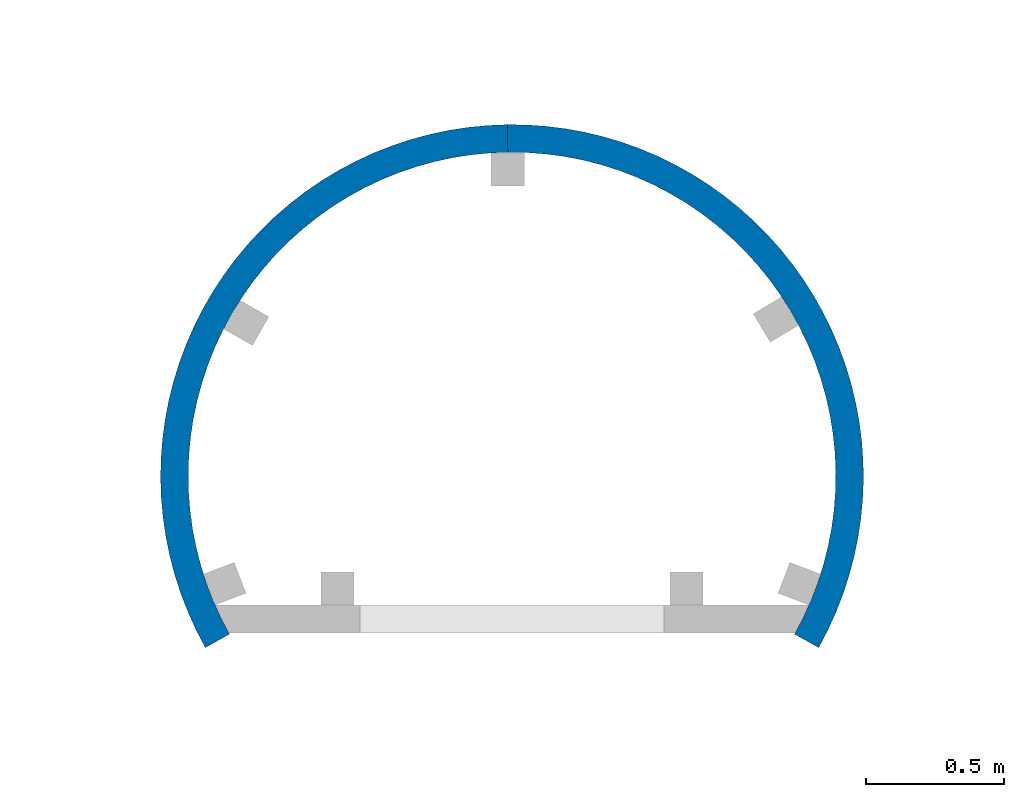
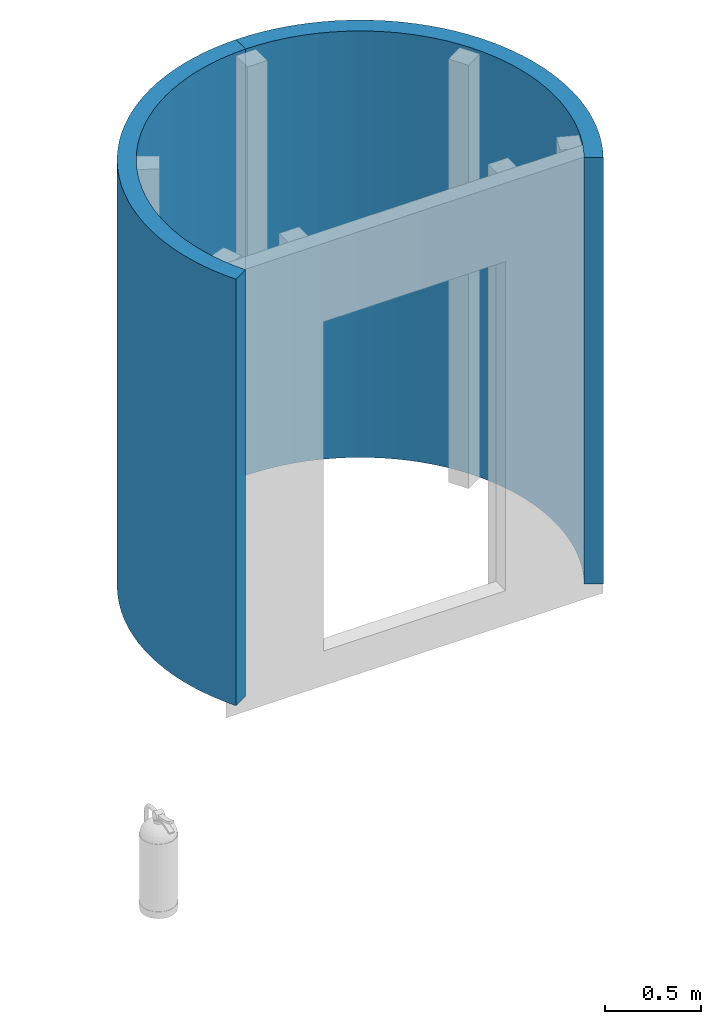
# One storey, part 3 of 4: 2 walls.
"""IFC4 building model written with IfcOpenShell, lengths in millimetres."""

from ifc_helpers import new_model, entity, si_unit, converted_unit, derived_unit, direction, frame, origin_with_axes, place, context, subcontext, project, spatial, line, arc, indexed_curve, outline, extrude, boolean, clip, halfspace, polygons, material, type_object, element, save


model = new_model("IFC4")

# Units and contexts
model_context = context("Model", 3, precision=0.01, world=origin_with_axes(), true_north=direction((0.0, 1.0)))
body_context = subcontext(model_context, "Body", "Model", "MODEL_VIEW")
ifc_project = project(units=[si_unit("LENGTHUNIT", "METRE", prefix="MILLI"), si_unit("AREAUNIT", "SQUARE_METRE"), si_unit("VOLUMEUNIT", "CUBIC_METRE"), converted_unit("PLANEANGLEUNIT", "DEGREE", entity("IfcPlaneAngleMeasure", 0.0174532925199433), si_unit("PLANEANGLEUNIT", "RADIAN"), dimensions=[0, 0, 0, 0, 0, 0, 0]), converted_unit("TIMEUNIT", "Year", entity("IfcTimeMeasure", 31557600.0), si_unit("TIMEUNIT", "SECOND"), dimensions=[0, 0, 1, 0, 0, 0, 0]), si_unit("MASSUNIT", "GRAM", prefix="KILO"), si_unit("THERMODYNAMICTEMPERATUREUNIT", "DEGREE_CELSIUS"), si_unit("LUMINOUSINTENSITYUNIT", "LUMEN"), si_unit("ENERGYUNIT", "JOULE", prefix="MEGA"), derived_unit("THERMALCONDUCTANCEUNIT", [(si_unit("POWERUNIT", "WATT"), 1), (si_unit("LENGTHUNIT", "METRE"), -1), (si_unit("THERMODYNAMICTEMPERATUREUNIT", "KELVIN"), -1)]), derived_unit("SPECIFICHEATCAPACITYUNIT", [(si_unit("ENERGYUNIT", "JOULE"), 1), (si_unit("MASSUNIT", "GRAM", prefix="KILO"), -1), (si_unit("THERMODYNAMICTEMPERATUREUNIT", "KELVIN"), -1)]), derived_unit("MASSDENSITYUNIT", [(si_unit("MASSUNIT", "GRAM", prefix="KILO"), 1), (si_unit("VOLUMEUNIT", "CUBIC_METRE"), -1)])], contexts=[model_context])

# Site, building, storey
site_placement = place(None, origin_with_axes())
site = spatial("IfcSite", under=ifc_project, at=site_placement, Name="Exteriér", CompositionType="ELEMENT")
building_placement = place(site_placement, origin_with_axes())
building = spatial("IfcBuilding", under=site, at=building_placement, Name="Univerzitní lezecké centrum", CompositionType="ELEMENT")
storey_placement = place(building_placement, frame((0.0, 0.0, 9600.000000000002), z_axis=(0.0, 0.0, 1.0), x_axis=(1.0, 0.0, 0.0)))
storey = spatial("IfcBuildingStorey", under=building, at=storey_placement, Name="4.NP", CompositionType="ELEMENT", Elevation=9600.0)

# Walls
ifc_material = material(Name="Sklo")
wall_type = type_object("IfcWallType", Name="Sklo 100", PredefinedType="NOTDEFINED")
wall_1_placement = place(storey_placement, frame((3586.466856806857, 3133.426201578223, -119.9999999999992), z_axis=(0.0, 0.0, 1.0), x_axis=(0.4461211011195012, 0.8949726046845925, 0.0)))
element("IfcWall", 1, at=wall_1_placement, inside=storey, type_object=wall_type, material=ifc_material, Name="Z061", PredefinedType="NOTDEFINED", context=body_context, shape_type="CSG", body=[
    boolean("DIFFERENCE", clip(extrude(outline(indexed_curve([(-60.75220164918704, 1.453914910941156), (1068.089871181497, 582.9162881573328), (1129.184494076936, 1851.242099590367), (1040.272329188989, 1805.475005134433), (983.9883065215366, 637.0173678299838), (-55.96856372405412, 101.3394334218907)], segments=[arc(1, 2, 3), line(3, 4), arc(4, 5, 6), line(6, 1)])), origin_with_axes(), (0.0, 0.0, 1.0), 2720.0), halfspace(frame((-658.7153960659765, -328.3528861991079, 3462.689550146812), z_axis=(0.1860752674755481, 0.09275379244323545, -0.9781476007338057), x_axis=(-0.8483172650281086, 0.5174399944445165, -0.1123105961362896)), True)), polygons([(1282.700000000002, -12.69999999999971, 0.0), (-73.45220164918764, -12.70000000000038, 0.0), (-73.45220164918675, 1863.942099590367, 0.0), (1282.700000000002, 1863.942099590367, 0.0), (392.8471537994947, 60.94078212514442, 0.0), (499.6448993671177, 101.022646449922, 0.0), (602.4197979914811, 150.5164290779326, 0.0), (700.3443666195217, 209.023635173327, 0.0), (792.630174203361, 276.0731991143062, 0.0), (878.5341896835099, 351.1252772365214, 0.0), (957.3647644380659, 433.575594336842, 0.0), (1028.487201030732, 522.7603089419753, 0.0), (1091.32886342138, 617.9613581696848, 0.0), (1145.383787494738, 718.412239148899, 0.0), (1190.21675478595, 823.304180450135, 0.0), (1225.466796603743, 931.792653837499, 0.0), (1250.850100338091, 1043.004173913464, 0.0), (1266.162294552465, 1156.043330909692, 0.0), (1271.280094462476, 1270.0, 0.0), (1266.162294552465, 1383.956669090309, 0.0), (1250.850100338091, 1496.995826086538, 0.0), (1225.466796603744, 1608.207346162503, 0.0), (1190.21675478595, 1716.695819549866, 0.0), (1145.383787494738, 1821.587760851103, 0.0), (1129.184494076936, 1851.242099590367, 0.0), (1040.272329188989, 1805.475005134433, 0.0), (1055.196087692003, 1778.155653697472, 0.0), (1096.498900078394, 1681.522920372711, 0.0), (1128.973348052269, 1581.576846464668, 0.0), (1152.357966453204, 1479.12213899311, 0.0), (1166.464476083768, 1374.983703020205, 0.0), (1171.179299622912, 1270.0, 0.0), (1166.464476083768, 1165.016296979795, 0.0), (1152.357966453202, 1060.877861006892, 0.0), (1128.973348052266, 958.4231535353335, 0.0), (1096.498900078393, 858.4770796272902, 0.0), (1055.196087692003, 761.8443463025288, 0.0), (1005.397456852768, 669.3029835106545, 0.0), (947.5039568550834, 581.5980798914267, 0.0), (881.9817121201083, 499.4357837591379, 0.0), (809.3582692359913, 423.4776176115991, 0.0), (730.2183494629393, 354.3351519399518, 0.0), (645.1991409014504, 292.5650812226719, 0.0), (554.985168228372, 238.6647417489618, 0.0), (460.3027813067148, 193.0681073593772, 0.0), (361.9143070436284, 156.1422953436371, 0.0), (260.6119115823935, 128.1846106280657, 0.0), (157.2112222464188, 109.4201520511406, 0.0), (52.54476058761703, 99.99999999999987, 0.0), (0.0, 99.99999999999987, 0.0), (-49.84389126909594, 99.99999999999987, 0.0), (0.0, 0.0, 0.0), (57.03576576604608, 0.0, 0.0), (170.6480788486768, 10.22529325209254, 0.0), (282.8864339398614, 30.59355170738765, 0.0), (-73.45220164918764, -12.70000000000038, 2720.0), (1282.700000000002, -12.69999999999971, 2720.0), (-73.45220164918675, 1863.942099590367, 2720.0), (1282.700000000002, 1863.942099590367, 2720.0), (392.8471537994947, 60.94078212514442, 2720.0), (499.6448993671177, 101.022646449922, 2720.0), (602.4197979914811, 150.5164290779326, 2720.0), (700.3443666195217, 209.023635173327, 2720.0), (792.630174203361, 276.0731991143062, 2720.0), (878.5341896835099, 351.1252772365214, 2720.0), (957.3647644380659, 433.575594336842, 2720.0), (1028.487201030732, 522.7603089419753, 2720.0), (1091.32886342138, 617.9613581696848, 2720.0), (1145.383787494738, 718.412239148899, 2720.0), (1190.21675478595, 823.304180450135, 2720.0), (1225.466796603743, 931.792653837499, 2720.0), (1250.850100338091, 1043.004173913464, 2720.0), (1266.162294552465, 1156.043330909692, 2720.0), (1271.280094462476, 1270.0, 2720.0), (1266.162294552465, 1383.956669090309, 2720.0), (1250.850100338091, 1496.995826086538, 2720.0), (1225.466796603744, 1608.207346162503, 2720.0), (1190.21675478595, 1716.695819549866, 2720.0), (1145.383787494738, 1821.587760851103, 2720.0), (1129.184494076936, 1851.242099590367, 2720.0), (1040.272329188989, 1805.475005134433, 2720.0), (1055.196087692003, 1778.155653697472, 2720.0), (1096.498900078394, 1681.522920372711, 2720.0), (1128.973348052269, 1581.576846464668, 2720.0), (1152.357966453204, 1479.12213899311, 2720.0), (1166.464476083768, 1374.983703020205, 2720.0), (1171.179299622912, 1270.0, 2720.0), (1166.464476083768, 1165.016296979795, 2720.0), (1152.357966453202, 1060.877861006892, 2720.0), (1128.973348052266, 958.4231535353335, 2720.0), (1096.498900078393, 858.4770796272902, 2720.0), (1055.196087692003, 761.8443463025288, 2720.0), (1005.397456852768, 669.3029835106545, 2720.0), (947.5039568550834, 581.5980798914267, 2720.0), (881.9817121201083, 499.4357837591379, 2720.0), (809.3582692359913, 423.4776176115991, 2720.0), (730.2183494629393, 354.3351519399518, 2720.0), (645.1991409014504, 292.5650812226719, 2720.0), (554.985168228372, 238.6647417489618, 2720.0), (460.3027813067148, 193.0681073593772, 2720.0), (361.9143070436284, 156.1422953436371, 2720.0), (260.6119115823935, 128.1846106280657, 2720.0), (157.2112222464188, 109.4201520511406, 2720.0), (52.54476058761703, 99.99999999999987, 2720.0), (0.0, 99.99999999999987, 2720.0), (-49.84389126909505, 100.0000000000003, 2720.0), (-49.84389126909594, 100.0000000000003, 19.99999999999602), (0.0, 0.0, 19.99999999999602), (0.0, 0.0, 2720.0), (57.03576576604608, 0.0, 2720.0), (170.6480788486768, 10.22529325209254, 2720.0), (282.8864339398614, 30.59355170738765, 2720.0)], [[[1, 2, 3, 4], [5, 6, 7, 8, 9, 10, 11, 12, 13, 14, 15, 16, 17, 18, 19, 20, 21, 22, 23, 24, 25, 26, 27, 28, 29, 30, 31, 32, 33, 34, 35, 36, 37, 38, 39, 40, 41, 42, 43, 44, 45, 46, 47, 48, 49, 50, 51, 52, 53, 54, 55]], [[56, 2, 1, 57]], [[58, 3, 2, 56]], [[59, 4, 3, 58]], [[57, 1, 4, 59]], [[60, 61, 6, 5]], [[61, 62, 7, 6]], [[62, 63, 8, 7]], [[63, 64, 9, 8]], [[64, 65, 10, 9]], [[65, 66, 11, 10]], [[66, 67, 12, 11]], [[67, 68, 13, 12]], [[68, 69, 14, 13]], [[69, 70, 15, 14]], [[70, 71, 16, 15]], [[71, 72, 17, 16]], [[72, 73, 18, 17]], [[73, 74, 19, 18]], [[74, 75, 20, 19]], [[75, 76, 21, 20]], [[76, 77, 22, 21]], [[77, 78, 23, 22]], [[78, 79, 24, 23]], [[79, 80, 25, 24]], [[80, 81, 26, 25]], [[81, 82, 27, 26]], [[82, 83, 28, 27]], [[83, 84, 29, 28]], [[84, 85, 30, 29]], [[85, 86, 31, 30]], [[86, 87, 32, 31]], [[87, 88, 33, 32]], [[88, 89, 34, 33]], [[89, 90, 35, 34]], [[90, 91, 36, 35]], [[91, 92, 37, 36]], [[92, 93, 38, 37]], [[93, 94, 39, 38]], [[94, 95, 40, 39]], [[95, 96, 41, 40]], [[96, 97, 42, 41]], [[97, 98, 43, 42]], [[98, 99, 44, 43]], [[99, 100, 45, 44]], [[100, 101, 46, 45]], [[101, 102, 47, 46]], [[102, 103, 48, 47]], [[103, 104, 49, 48]], [[104, 105, 50, 49]], [[105, 106, 107, 51, 50]], [[52, 51, 107, 108]], [[109, 110, 53, 52, 108]], [[110, 111, 54, 53]], [[111, 112, 55, 54]], [[112, 60, 5, 55]], [[58, 56, 57, 59], [64, 63, 62, 61, 60, 112, 111, 110, 109, 106, 105, 104, 103, 102, 101, 100, 99, 98, 97, 96, 95, 94, 93, 92, 91, 90, 89, 88, 87, 86, 85, 84, 83, 82, 81, 80, 79, 78, 77, 76, 75, 74, 73, 72, 71, 70, 69, 68, 67, 66, 65]], [[106, 109, 108, 107]]], closed=True)),
])
wall_2_placement = place(storey_placement, frame((2433.408922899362, 4969.893553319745, -119.9999999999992), z_axis=(0.0, 0.0, 1.0), x_axis=(-0.9999161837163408, -0.01294702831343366, 0.0)))
element("IfcWall", 2, at=wall_2_placement, inside=storey, type_object=wall_type, material=ifc_material, Name="Z060", PredefinedType="NOTDEFINED", context=body_context, shape_type="CSG", body=[
    boolean("DIFFERENCE", clip(extrude(outline(indexed_curve([(0.0, 0.0), (1091.399971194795, 620.5801797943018), (1116.183894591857, 1875.832908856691), (1028.295398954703, 1828.129530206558), (1005.462965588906, 671.7155987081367), (0.0, 100.0000000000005)], segments=[arc(1, 2, 3), line(3, 4), arc(4, 5, 6), line(6, 1)])), origin_with_axes(), (0.0, 0.0, 1.0), 2720.0), halfspace(frame((10.87881306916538, 840.1851748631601, 3953.091804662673), z_axis=(-0.002691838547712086, -0.2078942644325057, -0.9781476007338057), x_axis=(-0.8417488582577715, 0.5285401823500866, -0.110018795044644)), True)), polygons([(1282.700000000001, -12.7000000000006, 0.0), (-12.70000000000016, -12.69999999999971, 0.0), (-12.70000000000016, 1888.532908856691, 0.0), (1282.700000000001, 1888.532908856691, 0.0), (157.2112222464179, 109.4201520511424, 0.0), (52.54476058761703, 100.0000000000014, 0.0), (0.0, 99.99999999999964, 0.0), (0.0, 0.0, 0.0), (57.03576576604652, 0.0, 0.0), (170.6480788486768, 10.22529325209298, 0.0), (282.8864339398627, 30.59355170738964, 0.0), (392.8471537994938, 60.94078212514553, 0.0), (499.6448993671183, 101.0226464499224, 0.0), (602.4197979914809, 150.5164290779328, 0.0), (700.3443666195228, 209.0236351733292, 0.0), (792.6301742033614, 276.0731991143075, 0.0), (878.5341896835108, 351.1252772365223, 0.0), (957.3647644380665, 433.5755943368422, 0.0), (1028.487201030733, 522.760308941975, 0.0), (1091.32886342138, 617.9613581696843, 0.0), (1145.383787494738, 718.4122391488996, 0.0), (1190.21675478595, 823.304180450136, 0.0), (1225.466796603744, 931.7926538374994, 0.0), (1250.850100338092, 1043.004173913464, 0.0), (1266.162294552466, 1156.043330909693, 0.0), (1271.280094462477, 1270.000000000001, 0.0), (1266.162294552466, 1383.956669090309, 0.0), (1250.850100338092, 1496.995826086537, 0.0), (1225.466796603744, 1608.207346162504, 0.0), (1190.21675478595, 1716.695819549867, 0.0), (1143.886923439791, 1821.745146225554, 0.0), (1030.277739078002, 1823.219417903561, 0.0), (1053.817086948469, 1778.300646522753, 0.0), (1096.498900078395, 1681.522920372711, 0.0), (1128.973348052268, 1581.576846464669, 0.0), (1152.357966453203, 1479.122138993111, 0.0), (1166.464476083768, 1374.983703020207, 0.0), (1171.179299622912, 1270.000000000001, 0.0), (1166.464476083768, 1165.016296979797, 0.0), (1152.357966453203, 1060.877861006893, 0.0), (1128.973348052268, 958.4231535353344, 0.0), (1096.498900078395, 858.477079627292, 0.0), (1055.196087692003, 761.8443463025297, 0.0), (1005.397456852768, 669.3029835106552, 0.0), (947.5039568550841, 581.5980798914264, 0.0), (881.9817121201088, 499.4357837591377, 0.0), (809.3582692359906, 423.4776176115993, 0.0), (730.21834946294, 354.335151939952, 0.0), (645.1991409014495, 292.5650812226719, 0.0), (554.9851682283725, 238.6647417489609, 0.0), (460.3027813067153, 193.0681073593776, 0.0), (361.9143070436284, 156.1422953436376, 0.0), (260.6119115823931, 128.1846106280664, 0.0), (-12.70000000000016, -12.69999999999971, 2720.0), (1282.700000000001, -12.7000000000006, 2720.0), (-12.70000000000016, 1888.532908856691, 2720.0), (1282.700000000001, 1888.532908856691, 2720.0), (157.2112222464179, 109.4201520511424, 2720.0), (52.54476058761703, 100.0000000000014, 2720.0), (0.0, 99.99999999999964, 2720.0), (0.0, 0.0, 2720.0), (57.03576576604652, 0.0, 2720.0), (170.6480788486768, 10.22529325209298, 2720.0), (282.8864339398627, 30.59355170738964, 2720.0), (392.8471537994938, 60.94078212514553, 2720.0), (499.6448993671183, 101.0226464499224, 2720.0), (602.4197979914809, 150.5164290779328, 2720.0), (700.3443666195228, 209.0236351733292, 2720.0), (792.6301742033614, 276.0731991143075, 2720.0), (878.5341896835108, 351.1252772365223, 2720.0), (957.3647644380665, 433.5755943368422, 2720.0), (1028.487201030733, 522.760308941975, 2720.0), (1091.32886342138, 617.9613581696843, 2720.0), (1145.383787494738, 718.4122391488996, 2720.0), (1190.21675478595, 823.304180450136, 2720.0), (1225.466796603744, 931.7926538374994, 2720.0), (1250.850100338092, 1043.004173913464, 2720.0), (1266.162294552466, 1156.043330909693, 2720.0), (1271.280094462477, 1270.000000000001, 2720.0), (1266.162294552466, 1383.956669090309, 2720.0), (1250.850100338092, 1496.995826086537, 2720.0), (1225.466796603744, 1608.207346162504, 2720.0), (1190.21675478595, 1716.695819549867, 2720.0), (1143.886923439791, 1821.745146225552, 2720.0), (1143.886923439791, 1821.745146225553, 19.99999999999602), (1030.277739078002, 1823.21941790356, 19.99999999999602), (1030.277739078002, 1823.21941790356, 2720.0), (1053.817086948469, 1778.300646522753, 2720.0), (1096.498900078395, 1681.522920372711, 2720.0), (1128.973348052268, 1581.576846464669, 2720.0), (1152.357966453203, 1479.122138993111, 2720.0), (1166.464476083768, 1374.983703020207, 2720.0), (1171.179299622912, 1270.000000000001, 2720.0), (1166.464476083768, 1165.016296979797, 2720.0), (1152.357966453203, 1060.877861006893, 2720.0), (1128.973348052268, 958.4231535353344, 2720.0), (1096.498900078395, 858.477079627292, 2720.0), (1055.196087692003, 761.8443463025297, 2720.0), (1005.397456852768, 669.3029835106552, 2720.0), (947.5039568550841, 581.5980798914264, 2720.0), (881.9817121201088, 499.4357837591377, 2720.0), (809.3582692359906, 423.4776176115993, 2720.0), (730.21834946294, 354.335151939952, 2720.0), (645.1991409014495, 292.5650812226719, 2720.0), (554.9851682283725, 238.6647417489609, 2720.0), (460.3027813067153, 193.0681073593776, 2720.0), (361.9143070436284, 156.1422953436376, 2720.0), (260.6119115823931, 128.1846106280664, 2720.0)], [[[1, 2, 3, 4], [5, 6, 7, 8, 9, 10, 11, 12, 13, 14, 15, 16, 17, 18, 19, 20, 21, 22, 23, 24, 25, 26, 27, 28, 29, 30, 31, 32, 33, 34, 35, 36, 37, 38, 39, 40, 41, 42, 43, 44, 45, 46, 47, 48, 49, 50, 51, 52, 53]], [[54, 2, 1, 55]], [[56, 3, 2, 54]], [[57, 4, 3, 56]], [[55, 1, 4, 57]], [[58, 59, 6, 5]], [[59, 60, 7, 6]], [[60, 61, 8, 7]], [[61, 62, 9, 8]], [[62, 63, 10, 9]], [[63, 64, 11, 10]], [[64, 65, 12, 11]], [[65, 66, 13, 12]], [[66, 67, 14, 13]], [[67, 68, 15, 14]], [[68, 69, 16, 15]], [[69, 70, 17, 16]], [[70, 71, 18, 17]], [[71, 72, 19, 18]], [[72, 73, 20, 19]], [[73, 74, 21, 20]], [[74, 75, 22, 21]], [[75, 76, 23, 22]], [[76, 77, 24, 23]], [[77, 78, 25, 24]], [[78, 79, 26, 25]], [[79, 80, 27, 26]], [[80, 81, 28, 27]], [[81, 82, 29, 28]], [[82, 83, 30, 29]], [[83, 84, 85, 31, 30]], [[32, 31, 85, 86]], [[87, 88, 33, 32, 86]], [[88, 89, 34, 33]], [[89, 90, 35, 34]], [[90, 91, 36, 35]], [[91, 92, 37, 36]], [[92, 93, 38, 37]], [[93, 94, 39, 38]], [[94, 95, 40, 39]], [[95, 96, 41, 40]], [[96, 97, 42, 41]], [[97, 98, 43, 42]], [[98, 99, 44, 43]], [[99, 100, 45, 44]], [[100, 101, 46, 45]], [[101, 102, 47, 46]], [[102, 103, 48, 47]], [[103, 104, 49, 48]], [[104, 105, 50, 49]], [[105, 106, 51, 50]], [[106, 107, 52, 51]], [[107, 108, 53, 52]], [[108, 58, 5, 53]], [[56, 54, 55, 57], [62, 61, 60, 59, 58, 108, 107, 106, 105, 104, 103, 102, 101, 100, 99, 98, 97, 96, 95, 94, 93, 92, 91, 90, 89, 88, 87, 84, 83, 82, 81, 80, 79, 78, 77, 76, 75, 74, 73, 72, 71, 70, 69, 68, 67, 66, 65, 64, 63]], [[84, 87, 86, 85]]], closed=True)),
])

save(model, "model.ifc")
